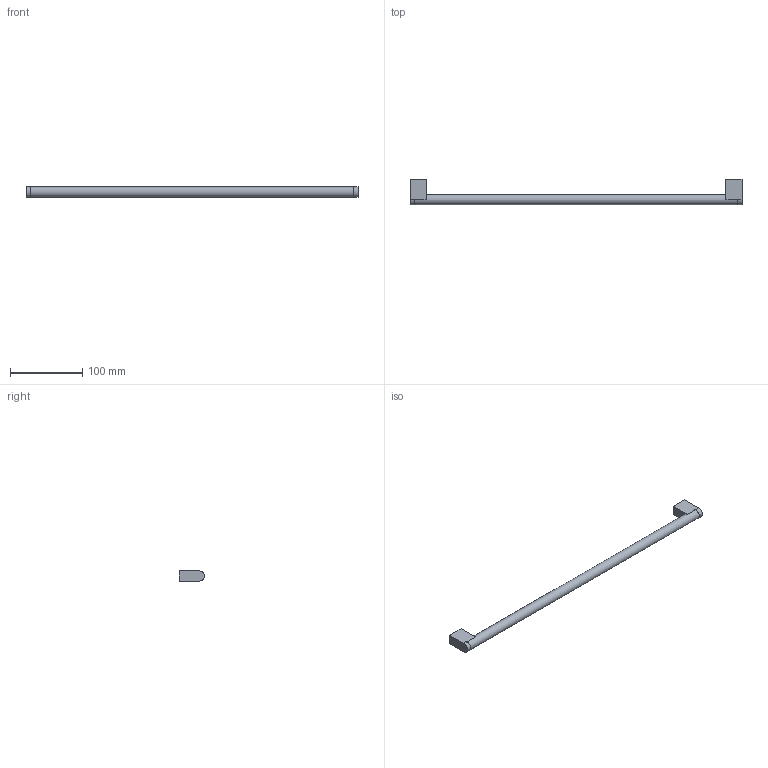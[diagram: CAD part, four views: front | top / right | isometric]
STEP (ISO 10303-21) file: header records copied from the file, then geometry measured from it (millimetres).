
FILE_DESCRIPTION( ( 'STEP AP214' ), ' ' );
FILE_NAME( 'C:/Users/bhog/Desktop/Handle/9070112/9070112.stp', '2018-11-20T10:21:17', ( '' ), ( '' ), ' ', 'PARTsolutions', ' ' );
FILE_SCHEMA( ( 'AUTOMOTIVE_DESIGN { 1 0 10303 214 1 1 1 1 }' ) );
Length unit declared in the file: millimetre
Products named in the file (1): _9070112
Bounding box: 460 x 35 x 14 mm (x, y, z)
Volume: 84413.7 mm3; surface area: 25598.9 mm2
Topology: 1 solids, 1 shells, 21 faces, 41 edges, 26 vertices
Faces by surface type: plane 14, cylinder 7
Full cylindrical faces by diameter (mm): 4 x2, 13.98 x1
Entity records: 706 total; most frequent: DIRECTION 96, CARTESIAN_POINT 86, ORIENTED_EDGE 76, EDGE_CURVE 38, AXIS2_PLACEMENT_3D 36, EDGE_LOOP 28, VERTEX_POINT 26, FACE_OUTER_BOUND 24
